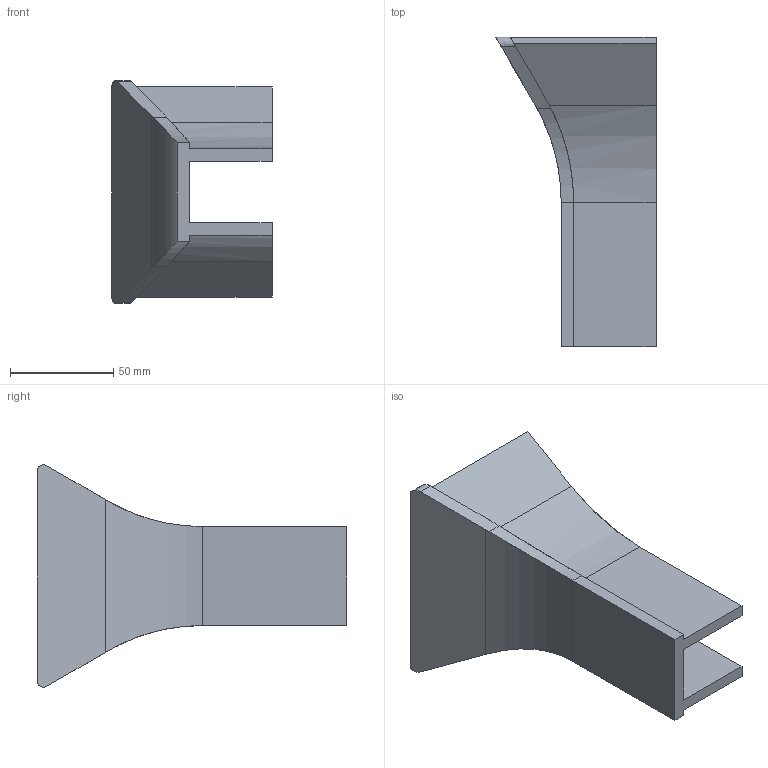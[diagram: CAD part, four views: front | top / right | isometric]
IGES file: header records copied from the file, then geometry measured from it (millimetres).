
Global section: file name: E:\UnigraphicsGraphicData\MISUMI_PRESS-PARTS\IGES\3d_cilg-70-40-30_00258_r00.igs; native system: NX V5.0; preprocessor: UGS NX IGES V5.0; author: MISUMI; date: 20110105.160246; units: millimetre
Bounding box: 77.65 x 150 x 107.89 mm (x, y, z)
Surface area: 52250.1 mm2 (no closed solid volume)
Topology: 0 solids, 0 shells, 38 faces, 214 edges, 214 vertices
Faces by surface type: bspline 38
